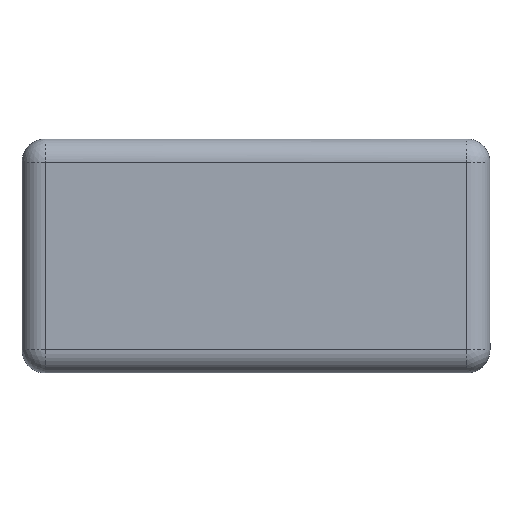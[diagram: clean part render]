
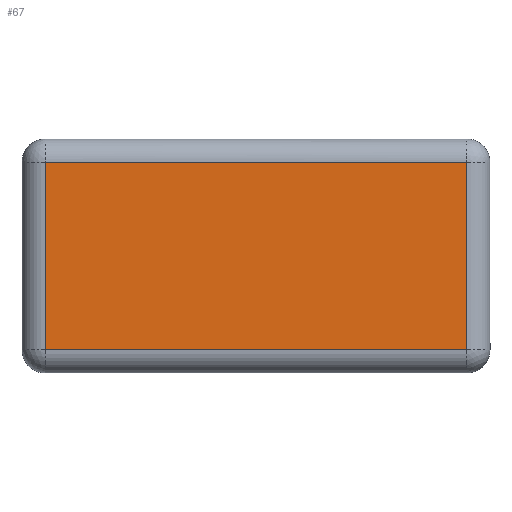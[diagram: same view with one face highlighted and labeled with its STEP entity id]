
A CAD part, top view. The second image highlights one B-rep face of the part: STEP entity #67.
In plain terms, the highlighted planar face has unit normal (0, 0, 1).
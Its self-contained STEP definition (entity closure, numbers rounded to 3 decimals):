
#6 = CARTESIAN_POINT ( 'NONE',  ( 4., 36., 4. ) ) ;
#10 = CARTESIAN_POINT ( 'NONE',  ( 76., 4., 4. ) ) ;
#16 = VERTEX_POINT ( 'NONE', #165 ) ;
#37 = LINE ( 'NONE', #76, #176 ) ;
#44 = ORIENTED_EDGE ( 'NONE', *, *, #235, .F. ) ;
#45 = LINE ( 'NONE', #209, #63 ) ;
#51 = VERTEX_POINT ( 'NONE', #10 ) ;
#58 = AXIS2_PLACEMENT_3D ( 'NONE', #268, #198, #92 ) ;
#62 = VERTEX_POINT ( 'NONE', #6 ) ;
#63 = VECTOR ( 'NONE', #80, 1000. ) ;
#65 = EDGE_CURVE ( 'NONE', #62, #309, #104, .T. ) ;
#67 = ADVANCED_FACE ( 'NONE', ( #192 ), #174, .T. ) ;
#68 = VECTOR ( 'NONE', #85, 1000. ) ;
#76 = CARTESIAN_POINT ( 'NONE',  ( 4., 20., 4. ) ) ;
#80 = DIRECTION ( 'NONE',  ( 0., -1., 0. ) ) ;
#85 = DIRECTION ( 'NONE',  ( -1., 0., 0. ) ) ;
#92 = DIRECTION ( 'NONE',  ( 1., 0., 0. ) ) ;
#98 = ORIENTED_EDGE ( 'NONE', *, *, #65, .F. ) ;
#104 = LINE ( 'NONE', #171, #173 ) ;
#110 = ORIENTED_EDGE ( 'NONE', *, *, #124, .F. ) ;
#124 = EDGE_CURVE ( 'NONE', #16, #62, #37, .T. ) ;
#126 = EDGE_LOOP ( 'NONE', ( #98, #110, #142, #44 ) ) ;
#135 = CARTESIAN_POINT ( 'NONE',  ( 40., 4., 4. ) ) ;
#142 = ORIENTED_EDGE ( 'NONE', *, *, #330, .F. ) ;
#148 = DIRECTION ( 'NONE',  ( 1., 0., 0. ) ) ;
#165 = CARTESIAN_POINT ( 'NONE',  ( 4., 4., 4. ) ) ;
#171 = CARTESIAN_POINT ( 'NONE',  ( 39.996, 36., 4. ) ) ;
#173 = VECTOR ( 'NONE', #148, 1000. ) ;
#174 = PLANE ( 'NONE',  #58 ) ;
#176 = VECTOR ( 'NONE', #228, 1000. ) ;
#192 = FACE_OUTER_BOUND ( 'NONE', #126, .T. ) ;
#198 = DIRECTION ( 'NONE',  ( 0., 0., 1. ) ) ;
#209 = CARTESIAN_POINT ( 'NONE',  ( 76., 36., 4. ) ) ;
#228 = DIRECTION ( 'NONE',  ( 0., 1., 0. ) ) ;
#235 = EDGE_CURVE ( 'NONE', #309, #51, #45, .T. ) ;
#256 = LINE ( 'NONE', #135, #68 ) ;
#268 = CARTESIAN_POINT ( 'NONE',  ( 4., 4., 4. ) ) ;
#309 = VERTEX_POINT ( 'NONE', #331 ) ;
#330 = EDGE_CURVE ( 'NONE', #51, #16, #256, .T. ) ;
#331 = CARTESIAN_POINT ( 'NONE',  ( 76., 36., 4. ) ) ;
